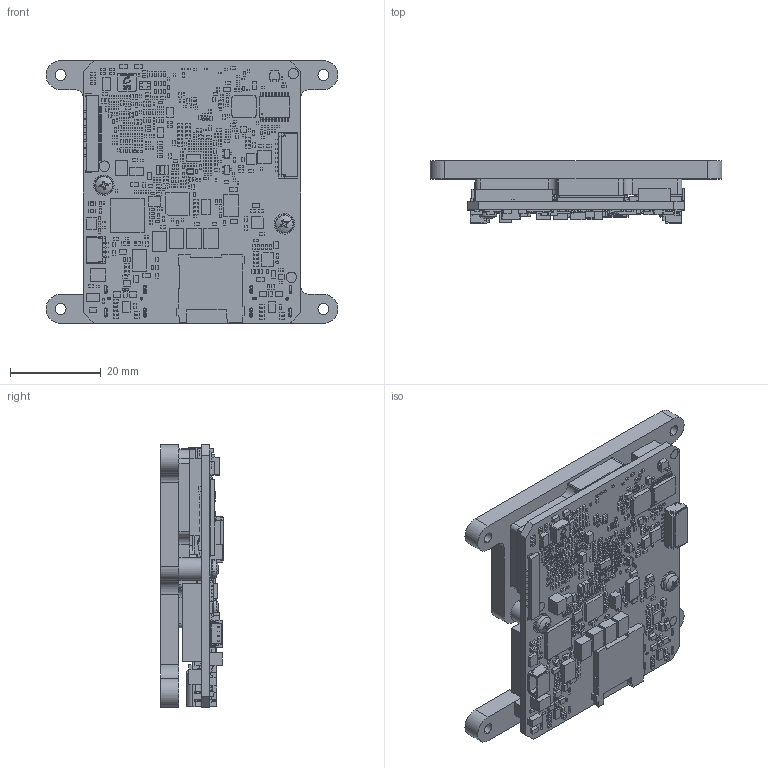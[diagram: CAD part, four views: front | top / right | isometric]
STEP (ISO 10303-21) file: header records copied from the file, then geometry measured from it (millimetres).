
FILE_DESCRIPTION (( 'STEP AP214' ), '1' );
FILE_NAME ('341C_0000_V02.STEP', '2023-08-17T03:26:46', ( '' ), ( '' ), 'SwSTEP 2.0', 'SolidWorks 2019', '' );
FILE_SCHEMA (( 'AUTOMOTIVE_DESIGN' ));
Length unit declared in the file: millimetre
Products named in the file (112): DFE201612C.stp; C0603.stp; 0532610471.stp; NFZ18SM121SN10D.stp; FDFN1212-4LD-PL-9.stp; 532610471.stp; 341C_1002_V02; 5031820853.stp; SM08B-SRSS-TB.stp; ASSEMBLY-1.stp; USP-11B01.stp; FB0603.stp; DFN8_3X3_05.stp; QFN40_0P4_5X5MM.stp; SM04B-SRSS-TB(LF)(SN).stp; Body-2.stp; C0201.stp; SM05B-SRSS-TB.stp; C0805.stp; DX07S024JA2-V1.stp; HUQFN16_1P6X2P4.stp; FBGA400_17X17_08.stp; FID40.stp; CM7V-T1A.stp; DFE252012C.stp; R0402.stp; PSOP8.stp; Pins-6.stp; 416F24022IKR.stp; TPAD_015.stp; QFN64_7P5X7P5_04EP.stp; ASSEMBLY-2.stp; Pins-3.stp; WLCSP10_0P4_1P2X1P6MM_SMDP.stp; L0402.stp; CP_32_12.stp; HVQFN56_0P4_7X7_EP4P7MM.stp; Pins.stp; SM06B-SRSS-TB(LF)(SN).stp; Body.stp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
Assembly tree (785 placements, depth 7):
  341C_0000_V02
    JUPITER_SB_R1
      JUPITER_SB_R1.stp
        COMPONENTS.stp
          TSSOP20.stp
            product.stp
          L0402.stp
            0402HL-821XJRU.stp
          KC2520_2P5X2P0.stp
            product-0.stp
          X3_1P6X1P2.stp
            416F24022IKR.stp
          X32_3P2X2P5.stp
            ASSEMBLY.stp
              Body.stp
              Pins.stp
          DFE201612C.stp
            product-1.stp
          DFE201612C.stp
            product-1.stp
          DFE201612C.stp
            product-1.stp
          DFE201612C.stp
            product-1.stp
          DFE201612C.stp
            product-1.stp
          DFE201612C.stp
            product-1.stp
          XAL4020.stp
            XFL4020-222MEC.stp
          XAL4020.stp
            XFL4020-222MEC.stp
          HUQFN16_1P6X2P4.stp
            ASSEMBLY-1.stp
              Body-2.stp
              Pins-3.stp
          HUQFN16_1P6X2P4.stp
            ASSEMBLY-1.stp
              Body-2.stp
              Pins-3.stp
          FB0603.stp
            NFZ18SM121SN10D.stp
          FB0603.stp
            NFZ18SM121SN10D.stp
          FB0603.stp
            NFZ18SM121SN10D.stp
          FB0603.stp
            NFZ18SM121SN10D.stp
          FB0603.stp
            NFZ18SM121SN10D.stp
          FB0603.stp
            NFZ18SM121SN10D.stp
          FB0603.stp
            NFZ18SM121SN10D.stp
          FB0603.stp
            NFZ18SM121SN10D.stp
          SM04B-SRSS-TB.stp
            SM04B-SRSS-TB(LF)(SN).stp
          QFN24_2P5X2P5_035EP.stp
            product-4.stp
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Bounding box: 64.4 x 13.78 x 58 mm (x, y, z)
Volume: 20120.7 mm3; surface area: 23187 mm2
Topology: 286 solids, 986 shells, 10265 faces, 24805 edges, 15716 vertices
Faces by surface type: plane 8496, cylinder 1261, bspline 182, torus 168, sphere 84, cone 74
Entity records: 148025 total; most frequent: CARTESIAN_POINT 31968, ORIENTED_EDGE 22332, DIRECTION 22035, EDGE_CURVE 11216, VECTOR 8791, LINE 8791, VERTEX_POINT 7306, AXIS2_PLACEMENT_3D 6622
